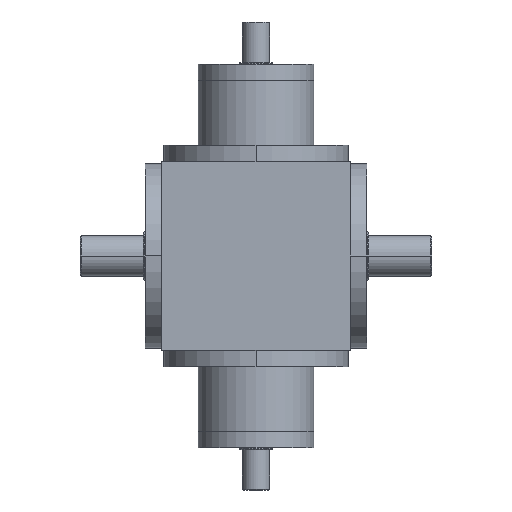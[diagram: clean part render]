
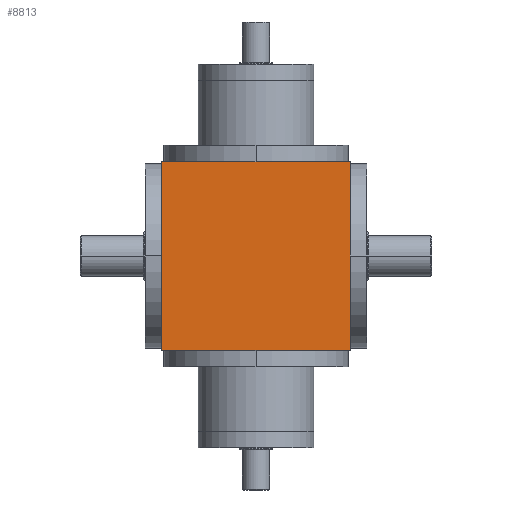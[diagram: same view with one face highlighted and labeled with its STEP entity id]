
A CAD part, front view. The second image highlights one B-rep face of the part: STEP entity #8813.
In plain terms, the highlighted planar face has unit normal (0, -1, 0).
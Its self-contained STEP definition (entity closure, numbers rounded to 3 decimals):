
#65 = VECTOR ( 'NONE', #24840, 1000. ) ;
#502 = CARTESIAN_POINT ( 'NONE',  ( -105., -105., 104.9 ) ) ;
#1413 = CARTESIAN_POINT ( 'NONE',  ( 104.9, -105., 104.9 ) ) ;
#1746 = VECTOR ( 'NONE', #3424, 1000. ) ;
#2715 = DIRECTION ( 'NONE',  ( 0., 0., -1. ) ) ;
#2986 = LINE ( 'NONE', #21036, #1746 ) ;
#3225 = DIRECTION ( 'NONE',  ( 0., 0., 1. ) ) ;
#3424 = DIRECTION ( 'NONE',  ( 1., 0., 0. ) ) ;
#3583 = LINE ( 'NONE', #22422, #4796 ) ;
#4796 = VECTOR ( 'NONE', #2715, 1000. ) ;
#5835 = EDGE_CURVE ( 'NONE', #18301, #17017, #8179, .T. ) ;
#6333 = EDGE_CURVE ( 'NONE', #17017, #16564, #3583, .T. ) ;
#8179 = LINE ( 'NONE', #502, #14039 ) ;
#8398 = DIRECTION ( 'NONE',  ( -1., 0., 0. ) ) ;
#8813 = ADVANCED_FACE ( 'NONE', ( #18442 ), #22991, .F. ) ;
#9056 = DIRECTION ( 'NONE',  ( 0., 1., 0. ) ) ;
#11190 = EDGE_LOOP ( 'NONE', ( #23836, #16188, #21631, #12165 ) ) ;
#11460 = CARTESIAN_POINT ( 'NONE',  ( 104.9, -105., 105. ) ) ;
#12165 = ORIENTED_EDGE ( 'NONE', *, *, #6333, .T. ) ;
#12429 = EDGE_CURVE ( 'NONE', #14387, #18301, #15738, .T. ) ;
#14039 = VECTOR ( 'NONE', #8398, 1000. ) ;
#14387 = VERTEX_POINT ( 'NONE', #20469 ) ;
#15738 = LINE ( 'NONE', #11460, #65 ) ;
#16188 = ORIENTED_EDGE ( 'NONE', *, *, #12429, .T. ) ;
#16564 = VERTEX_POINT ( 'NONE', #18284 ) ;
#17017 = VERTEX_POINT ( 'NONE', #18956 ) ;
#18284 = CARTESIAN_POINT ( 'NONE',  ( -104.9, -105., -104.9 ) ) ;
#18301 = VERTEX_POINT ( 'NONE', #1413 ) ;
#18442 = FACE_OUTER_BOUND ( 'NONE', #11190, .T. ) ;
#18956 = CARTESIAN_POINT ( 'NONE',  ( -104.9, -105., 104.9 ) ) ;
#20469 = CARTESIAN_POINT ( 'NONE',  ( 104.9, -105., -104.9 ) ) ;
#20773 = CARTESIAN_POINT ( 'NONE',  ( 105., -105., 105. ) ) ;
#21036 = CARTESIAN_POINT ( 'NONE',  ( 105., -105., -104.9 ) ) ;
#21631 = ORIENTED_EDGE ( 'NONE', *, *, #5835, .T. ) ;
#21831 = AXIS2_PLACEMENT_3D ( 'NONE', #20773, #9056, #3225 ) ;
#22248 = EDGE_CURVE ( 'NONE', #16564, #14387, #2986, .T. ) ;
#22422 = CARTESIAN_POINT ( 'NONE',  ( -104.9, -105., 105. ) ) ;
#22991 = PLANE ( 'NONE',  #21831 ) ;
#23836 = ORIENTED_EDGE ( 'NONE', *, *, #22248, .T. ) ;
#24840 = DIRECTION ( 'NONE',  ( 0., 0., 1. ) ) ;
